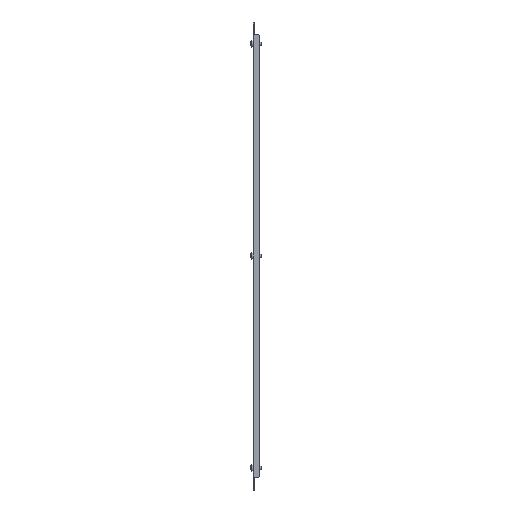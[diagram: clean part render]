
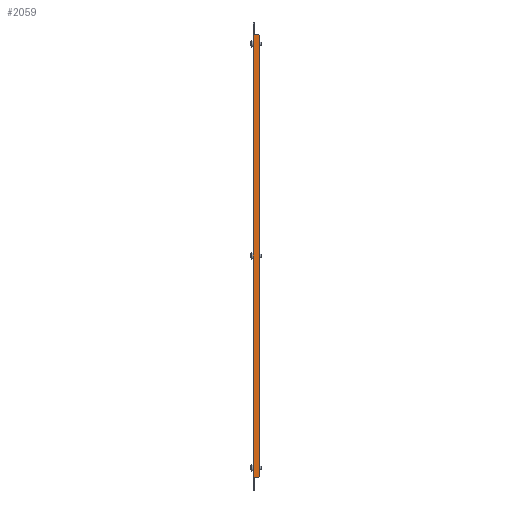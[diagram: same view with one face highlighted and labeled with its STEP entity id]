
A CAD part, left-side view. The second image highlights one B-rep face of the part: STEP entity #2059.
In plain terms, the highlighted planar face has unit normal (-1, 0, 0) as drawn and (1, 0, 0) by its records, which use the part's own axes.
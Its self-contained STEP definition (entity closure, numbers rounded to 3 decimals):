
#1 = VECTOR ( 'NONE', #1522, 1000. ) ;
#43 = CARTESIAN_POINT ( 'NONE',  ( 134., 312., -9. ) ) ;
#88 = DIRECTION ( 'NONE',  ( 0., 0.707, 0.707 ) ) ;
#124 = DIRECTION ( 'NONE',  ( 0., 0.707, -0.707 ) ) ;
#201 = AXIS2_PLACEMENT_3D ( 'NONE', #2667, #1641, #2135 ) ;
#258 = ORIENTED_EDGE ( 'NONE', *, *, #2962, .T. ) ;
#265 = VERTEX_POINT ( 'NONE', #1652 ) ;
#334 = CARTESIAN_POINT ( 'NONE',  ( 134., 313., -8. ) ) ;
#354 = EDGE_CURVE ( 'NONE', #778, #2611, #1984, .T. ) ;
#396 = DIRECTION ( 'NONE',  ( 0., 0., 1. ) ) ;
#455 = LINE ( 'NONE', #2697, #951 ) ;
#580 = EDGE_CURVE ( 'NONE', #2611, #2424, #1802, .T. ) ;
#598 = ORIENTED_EDGE ( 'NONE', *, *, #2679, .F. ) ;
#701 = ORIENTED_EDGE ( 'NONE', *, *, #2182, .T. ) ;
#778 = VERTEX_POINT ( 'NONE', #839 ) ;
#839 = CARTESIAN_POINT ( 'NONE',  ( 134., 313., -8. ) ) ;
#901 = VECTOR ( 'NONE', #124, 1000. ) ;
#951 = VECTOR ( 'NONE', #3219, 1000. ) ;
#1067 = CARTESIAN_POINT ( 'NONE',  ( 134., 313., -2.1 ) ) ;
#1112 = VECTOR ( 'NONE', #88, 1000. ) ;
#1147 = LINE ( 'NONE', #334, #1112 ) ;
#1305 = CARTESIAN_POINT ( 'NONE',  ( 134., 313., 0. ) ) ;
#1336 = ORIENTED_EDGE ( 'NONE', *, *, #3127, .T. ) ;
#1355 = PLANE ( 'NONE',  #201 ) ;
#1415 = CARTESIAN_POINT ( 'NONE',  ( 134., -313., 0. ) ) ;
#1522 = DIRECTION ( 'NONE',  ( 0., 1., 0. ) ) ;
#1534 = VERTEX_POINT ( 'NONE', #2653 ) ;
#1541 = ORIENTED_EDGE ( 'NONE', *, *, #354, .T. ) ;
#1555 = CARTESIAN_POINT ( 'NONE',  ( 134., -313., 0. ) ) ;
#1641 = DIRECTION ( 'NONE',  ( -1., 0., 0. ) ) ;
#1652 = CARTESIAN_POINT ( 'NONE',  ( 134., -313., -2.1 ) ) ;
#1666 = ORIENTED_EDGE ( 'NONE', *, *, #580, .T. ) ;
#1718 = CARTESIAN_POINT ( 'NONE',  ( 134., 313., 0. ) ) ;
#1719 = VECTOR ( 'NONE', #1868, 1000. ) ;
#1802 = LINE ( 'NONE', #1067, #2592 ) ;
#1856 = FACE_OUTER_BOUND ( 'NONE', #3160, .T. ) ;
#1868 = DIRECTION ( 'NONE',  ( 0., 0., -1. ) ) ;
#1884 = ORIENTED_EDGE ( 'NONE', *, *, #2629, .T. ) ;
#1927 = VECTOR ( 'NONE', #396, 1000. ) ;
#1932 = VERTEX_POINT ( 'NONE', #43 ) ;
#1953 = LINE ( 'NONE', #1415, #1927 ) ;
#1984 = LINE ( 'NONE', #1718, #2539 ) ;
#1999 = EDGE_CURVE ( 'NONE', #1932, #778, #1147, .T. ) ;
#2059 = ADVANCED_FACE ( 'NONE', ( #1856 ), #1355, .F. ) ;
#2135 = DIRECTION ( 'NONE',  ( 0., 0., 1. ) ) ;
#2181 = CARTESIAN_POINT ( 'NONE',  ( 134., -312., -9. ) ) ;
#2182 = EDGE_CURVE ( 'NONE', #2424, #2948, #455, .T. ) ;
#2340 = VERTEX_POINT ( 'NONE', #2181 ) ;
#2422 = CARTESIAN_POINT ( 'NONE',  ( 134., -312., -9. ) ) ;
#2424 = VERTEX_POINT ( 'NONE', #1305 ) ;
#2514 = LINE ( 'NONE', #3272, #1 ) ;
#2539 = VECTOR ( 'NONE', #2801, 1000. ) ;
#2592 = VECTOR ( 'NONE', #2601, 1000. ) ;
#2601 = DIRECTION ( 'NONE',  ( 0., 0., 1. ) ) ;
#2611 = VERTEX_POINT ( 'NONE', #2864 ) ;
#2629 = EDGE_CURVE ( 'NONE', #265, #1534, #2661, .T. ) ;
#2653 = CARTESIAN_POINT ( 'NONE',  ( 134., -313., -8. ) ) ;
#2661 = LINE ( 'NONE', #2894, #1719 ) ;
#2667 = CARTESIAN_POINT ( 'NONE',  ( 134., 0., 0. ) ) ;
#2679 = EDGE_CURVE ( 'NONE', #265, #2948, #1953, .T. ) ;
#2697 = CARTESIAN_POINT ( 'NONE',  ( 134., 0., 0. ) ) ;
#2779 = ORIENTED_EDGE ( 'NONE', *, *, #1999, .T. ) ;
#2801 = DIRECTION ( 'NONE',  ( 0., 0., 1. ) ) ;
#2864 = CARTESIAN_POINT ( 'NONE',  ( 134., 313., -2.1 ) ) ;
#2894 = CARTESIAN_POINT ( 'NONE',  ( 134., -313., 0. ) ) ;
#2948 = VERTEX_POINT ( 'NONE', #1555 ) ;
#2962 = EDGE_CURVE ( 'NONE', #2340, #1932, #2514, .T. ) ;
#3127 = EDGE_CURVE ( 'NONE', #1534, #2340, #3212, .T. ) ;
#3160 = EDGE_LOOP ( 'NONE', ( #258, #2779, #1541, #1666, #701, #598, #1884, #1336 ) ) ;
#3212 = LINE ( 'NONE', #2422, #901 ) ;
#3219 = DIRECTION ( 'NONE',  ( 0., -1., 0. ) ) ;
#3272 = CARTESIAN_POINT ( 'NONE',  ( 134., 0., -9. ) ) ;
